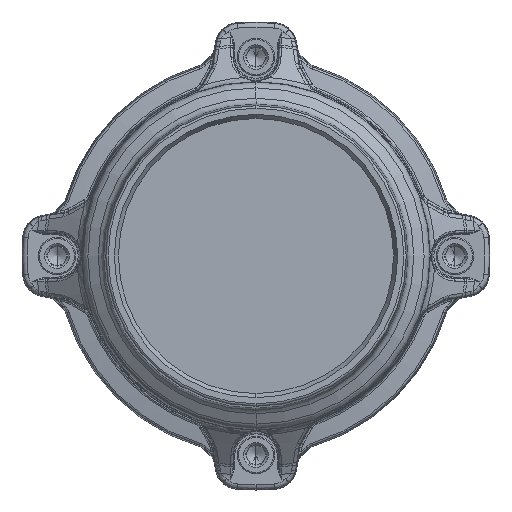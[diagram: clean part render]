
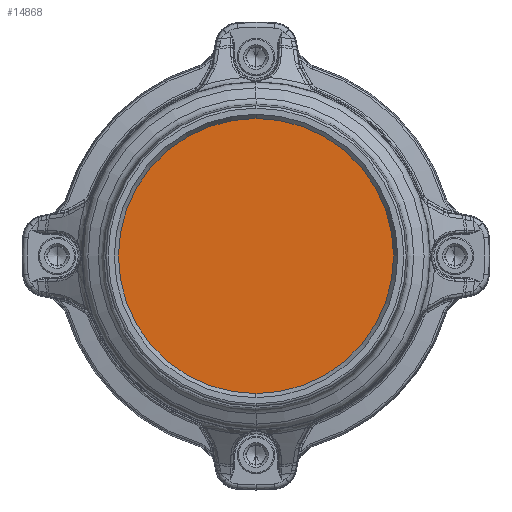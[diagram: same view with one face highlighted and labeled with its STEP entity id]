
A CAD part, left-side view. The second image highlights one B-rep face of the part: STEP entity #14868.
In plain terms, the highlighted planar face has unit normal (-1, 0, 0).
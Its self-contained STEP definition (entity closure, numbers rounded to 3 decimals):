
#5018 = EDGE_CURVE ( 'NONE', #146017, #146018, #61599, .T. ) ;
#14868 = ADVANCED_FACE ( 'NONE', ( #117210 ), #114501, .T. ) ;
#17959 = ORIENTED_EDGE ( 'NONE', *, *, #150372, .T. ) ;
#17960 = ORIENTED_EDGE ( 'NONE', *, *, #5018, .T. ) ;
#19311 = EDGE_LOOP ( 'NONE', ( #17959, #17960 ) ) ;
#61599 = CIRCLE ( 'NONE', #64816, 58.8 ) ;
#64229 = CARTESIAN_POINT ( 'NONE',  ( -187., 0., 0. ) ) ;
#64231 = DIRECTION ( 'NONE',  ( -1., 0., 0. ) ) ;
#64232 = DIRECTION ( 'NONE',  ( 0., 0., 1. ) ) ;
#64816 = AXIS2_PLACEMENT_3D ( 'NONE', #64229, #64231, #64232 ) ;
#81700 = AXIS2_PLACEMENT_3D ( 'NONE', #107802, #107803, #107804 ) ;
#86263 = CIRCLE ( 'NONE', #81700, 58.8 ) ;
#94451 = CARTESIAN_POINT ( 'NONE',  ( -187., 0., -58.8 ) ) ;
#94452 = CARTESIAN_POINT ( 'NONE',  ( -187., 0., 58.8 ) ) ;
#107802 = CARTESIAN_POINT ( 'NONE',  ( -187., 0., 0. ) ) ;
#107803 = DIRECTION ( 'NONE',  ( -1., 0., 0. ) ) ;
#107804 = DIRECTION ( 'NONE',  ( 0., 0., 1. ) ) ;
#109332 = AXIS2_PLACEMENT_3D ( 'NONE', #114505, #114514, #114516 ) ;
#114501 = PLANE ( 'NONE',  #109332 ) ;
#114505 = CARTESIAN_POINT ( 'NONE',  ( -187., 62.178, 0. ) ) ;
#114514 = DIRECTION ( 'NONE',  ( -1., 0., 0. ) ) ;
#114516 = DIRECTION ( 'NONE',  ( 0., -1., 0. ) ) ;
#117210 = FACE_OUTER_BOUND ( 'NONE', #19311, .T. ) ;
#146017 = VERTEX_POINT ( 'NONE', #94451 ) ;
#146018 = VERTEX_POINT ( 'NONE', #94452 ) ;
#150372 = EDGE_CURVE ( 'NONE', #146018, #146017, #86263, .T. ) ;
